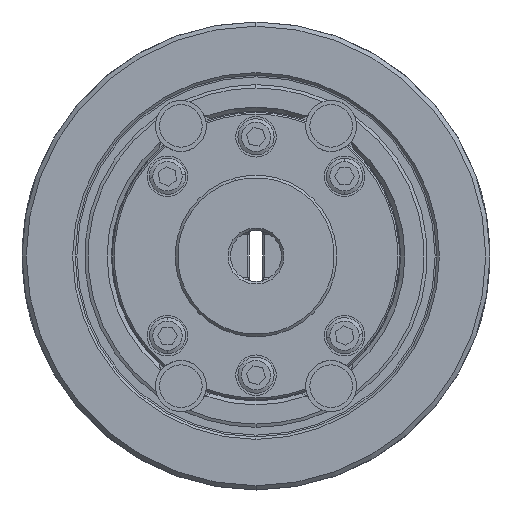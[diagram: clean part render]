
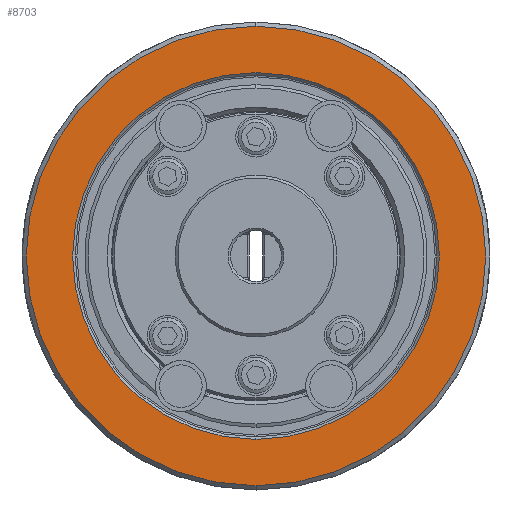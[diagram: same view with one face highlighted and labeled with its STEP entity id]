
A CAD part, left-side view. The second image highlights one B-rep face of the part: STEP entity #8703.
In plain terms, the highlighted planar face has unit normal (-1, 0, 0).
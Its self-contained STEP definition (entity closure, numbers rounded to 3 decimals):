
#3605 = EDGE_CURVE ( 'NONE', #20553, #33577, #47109, .T. ) ;
#4441 = VERTEX_POINT ( 'NONE', #44041 ) ;
#4803 = DIRECTION ( 'NONE',  ( 1., 0., 0. ) ) ;
#7081 = CARTESIAN_POINT ( 'NONE',  ( -59., 0., 0. ) ) ;
#7627 = EDGE_CURVE ( 'NONE', #7907, #4441, #55343, .T. ) ;
#7907 = VERTEX_POINT ( 'NONE', #26882 ) ;
#8703 = ADVANCED_FACE ( 'NONE', ( #10444, #62277 ), #23932, .T. ) ;
#9400 = DIRECTION ( 'NONE',  ( 1., 0., 0. ) ) ;
#10444 = FACE_BOUND ( 'NONE', #11896, .T. ) ;
#11896 = EDGE_LOOP ( 'NONE', ( #65011, #54745 ) ) ;
#12122 = DIRECTION ( 'NONE',  ( 0., 0., -1. ) ) ;
#15415 = AXIS2_PLACEMENT_3D ( 'NONE', #34872, #4803, #39919 ) ;
#17345 = AXIS2_PLACEMENT_3D ( 'NONE', #18882, #28754, #59032 ) ;
#18882 = CARTESIAN_POINT ( 'NONE',  ( -59., 0., -54. ) ) ;
#20553 = VERTEX_POINT ( 'NONE', #31430 ) ;
#21884 = EDGE_CURVE ( 'NONE', #4441, #7907, #55612, .T. ) ;
#22329 = AXIS2_PLACEMENT_3D ( 'NONE', #59820, #29755, #64894 ) ;
#23932 = PLANE ( 'NONE',  #17345 ) ;
#26882 = CARTESIAN_POINT ( 'NONE',  ( -59., 0., 43.1 ) ) ;
#28227 = EDGE_LOOP ( 'NONE', ( #61294, #59226 ) ) ;
#28754 = DIRECTION ( 'NONE',  ( -1., 0., 0. ) ) ;
#29755 = DIRECTION ( 'NONE',  ( 1., 0., 0. ) ) ;
#31430 = CARTESIAN_POINT ( 'NONE',  ( -59., 0., 54. ) ) ;
#33577 = VERTEX_POINT ( 'NONE', #52338 ) ;
#34872 = CARTESIAN_POINT ( 'NONE',  ( -59., 0., 0. ) ) ;
#36942 = CIRCLE ( 'NONE', #65192, 54. ) ;
#39460 = CARTESIAN_POINT ( 'NONE',  ( -59., 0., 0. ) ) ;
#39919 = DIRECTION ( 'NONE',  ( 0., 0., -1. ) ) ;
#42169 = DIRECTION ( 'NONE',  ( 1., 0., 0. ) ) ;
#43333 = EDGE_CURVE ( 'NONE', #33577, #20553, #36942, .T. ) ;
#44041 = CARTESIAN_POINT ( 'NONE',  ( -59., 0., -43.1 ) ) ;
#44482 = DIRECTION ( 'NONE',  ( 0., 0., -1. ) ) ;
#47109 = CIRCLE ( 'NONE', #51470, 54. ) ;
#51470 = AXIS2_PLACEMENT_3D ( 'NONE', #7081, #42169, #12122 ) ;
#52338 = CARTESIAN_POINT ( 'NONE',  ( -59., 0., -54. ) ) ;
#54745 = ORIENTED_EDGE ( 'NONE', *, *, #21884, .T. ) ;
#55343 = CIRCLE ( 'NONE', #22329, 43.1 ) ;
#55612 = CIRCLE ( 'NONE', #15415, 43.1 ) ;
#59032 = DIRECTION ( 'NONE',  ( 0., 0., 1. ) ) ;
#59226 = ORIENTED_EDGE ( 'NONE', *, *, #3605, .F. ) ;
#59820 = CARTESIAN_POINT ( 'NONE',  ( -59., 0., 0. ) ) ;
#61294 = ORIENTED_EDGE ( 'NONE', *, *, #43333, .F. ) ;
#62277 = FACE_OUTER_BOUND ( 'NONE', #28227, .T. ) ;
#64894 = DIRECTION ( 'NONE',  ( 0., 0., -1. ) ) ;
#65011 = ORIENTED_EDGE ( 'NONE', *, *, #7627, .T. ) ;
#65192 = AXIS2_PLACEMENT_3D ( 'NONE', #39460, #9400, #44482 ) ;
